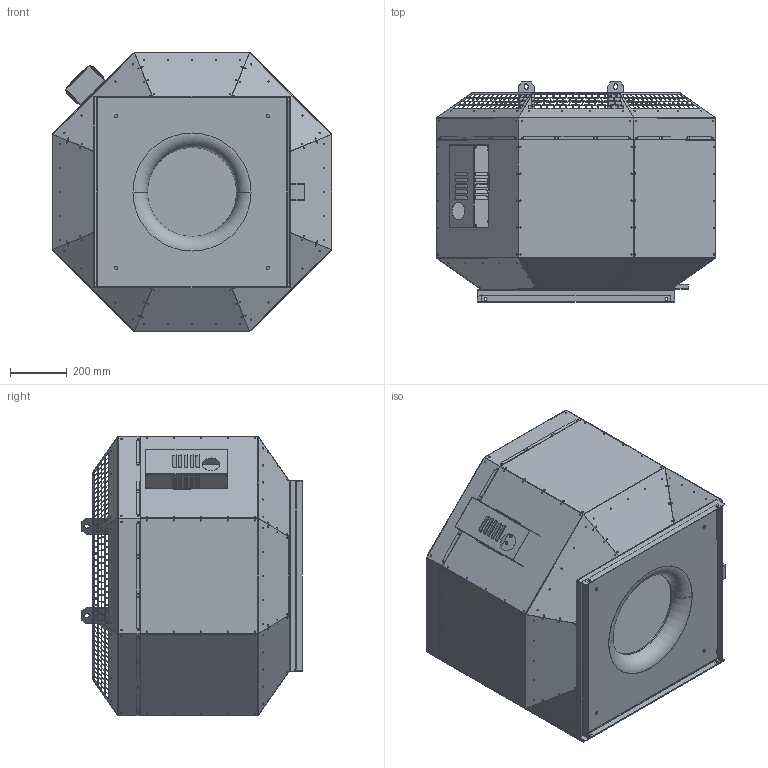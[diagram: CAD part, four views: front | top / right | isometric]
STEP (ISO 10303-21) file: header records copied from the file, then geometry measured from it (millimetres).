
FILE_DESCRIPTION (( 'STEP AP203' ), '1' );
FILE_NAME ('145042-00_DVNI500D430_step.step', '2018-07-31T07:12:04', ( '' ), ( '' ), 'SwSTEP 2.0', 'SolidWorks 2017', '' );
FILE_SCHEMA (( 'CONFIG_CONTROL_DESIGN' ));
Length unit declared in the file: millimetre
Products named in the file (1): 145042-00_DVNI500D430_step
Bounding box: 984.02 x 776.12 x 984.02 mm (x, y, z)
Surface area: 7112701.7 mm2 (no closed solid volume)
Topology: 0 solids, 34 shells, 1744 faces, 11941 edges, 9451 vertices
Faces by surface type: plane 1351, cylinder 328, bspline 61, torus 4
Entity records: 131338 total; most frequent: CARTESIAN_POINT 40409, DIRECTION 16545, ORIENTED_EDGE 15765, EDGE_CURVE 11941, VECTOR 9885, LINE 9885, VERTEX_POINT 9451, EDGE_LOOP 4238
